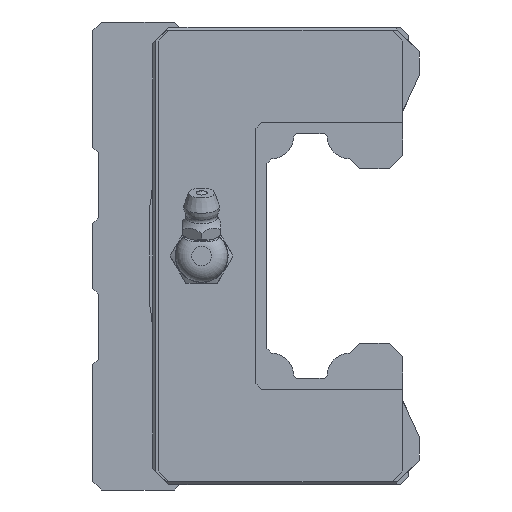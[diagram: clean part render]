
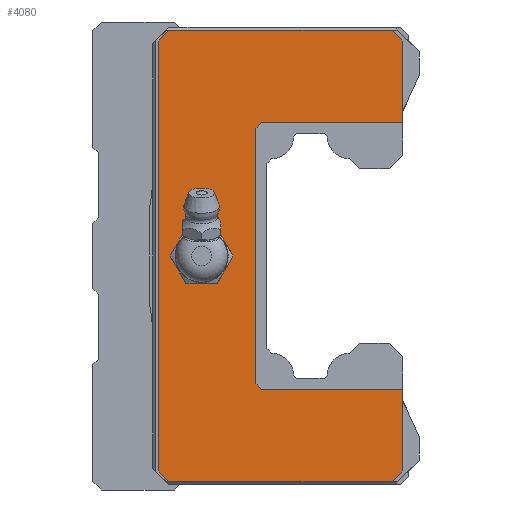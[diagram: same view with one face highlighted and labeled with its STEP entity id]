
A CAD part, left-side view. The second image highlights one B-rep face of the part: STEP entity #4080.
In plain terms, the highlighted planar face has unit normal (-1, 0, 0).
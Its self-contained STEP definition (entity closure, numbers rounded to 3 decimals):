
#265=LINE('',#6237,#741);
#270=LINE('',#6247,#746);
#419=LINE('',#6580,#895);
#423=LINE('',#6587,#899);
#424=LINE('',#6589,#900);
#426=LINE('',#6593,#902);
#429=LINE('',#6598,#905);
#431=LINE('',#6602,#907);
#433=LINE('',#6606,#909);
#447=LINE('',#6657,#923);
#448=LINE('',#6660,#924);
#449=LINE('',#6661,#925);
#450=LINE('',#6663,#926);
#451=LINE('',#6665,#927);
#741=VECTOR('',#4912,1000.);
#746=VECTOR('',#4919,1000.);
#895=VECTOR('',#5210,1000.);
#899=VECTOR('',#5216,1000.);
#900=VECTOR('',#5219,1000.);
#902=VECTOR('',#5223,1000.);
#905=VECTOR('',#5228,1000.);
#907=VECTOR('',#5232,1000.);
#909=VECTOR('',#5236,1000.);
#923=VECTOR('',#5298,1000.);
#924=VECTOR('',#5299,1000.);
#925=VECTOR('',#5300,1000.);
#926=VECTOR('',#5301,1000.);
#927=VECTOR('',#5302,1000.);
#1115=PLANE('',#4387);
#1248=CIRCLE('',#4388,4.864);
#2054=ORIENTED_EDGE('',*,*,#2874,.T.);
#2055=ORIENTED_EDGE('',*,*,#2875,.T.);
#2056=ORIENTED_EDGE('',*,*,#2876,.T.);
#2057=ORIENTED_EDGE('',*,*,#2664,.T.);
#2058=ORIENTED_EDGE('',*,*,#2842,.T.);
#2059=ORIENTED_EDGE('',*,*,#2838,.T.);
#2060=ORIENTED_EDGE('',*,*,#2852,.T.);
#2061=ORIENTED_EDGE('',*,*,#2850,.T.);
#2062=ORIENTED_EDGE('',*,*,#2848,.T.);
#2063=ORIENTED_EDGE('',*,*,#2845,.T.);
#2064=ORIENTED_EDGE('',*,*,#2843,.T.);
#2065=ORIENTED_EDGE('',*,*,#2669,.T.);
#2066=ORIENTED_EDGE('',*,*,#2877,.T.);
#2067=ORIENTED_EDGE('',*,*,#2878,.T.);
#2068=ORIENTED_EDGE('',*,*,#2879,.T.);
#2664=EDGE_CURVE('',#3170,#3169,#265,.T.);
#2669=EDGE_CURVE('',#3174,#3173,#270,.T.);
#2838=EDGE_CURVE('',#3287,#3288,#419,.T.);
#2842=EDGE_CURVE('',#3169,#3287,#423,.T.);
#2843=EDGE_CURVE('',#3289,#3174,#424,.T.);
#2845=EDGE_CURVE('',#3290,#3289,#426,.T.);
#2848=EDGE_CURVE('',#3291,#3290,#429,.T.);
#2850=EDGE_CURVE('',#3292,#3291,#431,.T.);
#2852=EDGE_CURVE('',#3288,#3292,#433,.T.);
#2874=EDGE_CURVE('',#3305,#3305,#1248,.T.);
#2875=EDGE_CURVE('',#3306,#3307,#447,.T.);
#2876=EDGE_CURVE('',#3307,#3170,#448,.T.);
#2877=EDGE_CURVE('',#3173,#3308,#449,.T.);
#2878=EDGE_CURVE('',#3308,#3309,#450,.T.);
#2879=EDGE_CURVE('',#3309,#3306,#451,.T.);
#3169=VERTEX_POINT('',#6236);
#3170=VERTEX_POINT('',#6238);
#3173=VERTEX_POINT('',#6246);
#3174=VERTEX_POINT('',#6248);
#3287=VERTEX_POINT('',#6581);
#3288=VERTEX_POINT('',#6582);
#3289=VERTEX_POINT('',#6590);
#3290=VERTEX_POINT('',#6594);
#3291=VERTEX_POINT('',#6599);
#3292=VERTEX_POINT('',#6603);
#3305=VERTEX_POINT('',#6656);
#3306=VERTEX_POINT('',#6658);
#3307=VERTEX_POINT('',#6659);
#3308=VERTEX_POINT('',#6662);
#3309=VERTEX_POINT('',#6664);
#3551=EDGE_LOOP('',(#2054));
#3552=EDGE_LOOP('',(#2055,#2056,#2057,#2058,#2059,#2060,#2061,#2062,#2063,
#2064,#2065,#2066,#2067,#2068));
#3822=FACE_BOUND('',#3551,.T.);
#3823=FACE_BOUND('',#3552,.T.);
#4080=ADVANCED_FACE('',(#3822,#3823),#1115,.F.);
#4387=AXIS2_PLACEMENT_3D('',#6654,#5294,#5295);
#4388=AXIS2_PLACEMENT_3D('',#6655,#5296,#5297);
#4912=DIRECTION('',(0.,0.,1.));
#4919=DIRECTION('',(0.,0.,1.));
#5210=DIRECTION('',(0.,1.,0.));
#5216=DIRECTION('',(0.,0.707,0.707));
#5219=DIRECTION('',(0.,-0.707,0.707));
#5223=DIRECTION('',(0.,-1.,0.));
#5228=DIRECTION('',(0.,-0.707,-0.707));
#5232=DIRECTION('',(0.,0.,-1.));
#5236=DIRECTION('',(0.,0.707,-0.707));
#5294=DIRECTION('',(1.,0.,0.));
#5295=DIRECTION('',(0.,0.,-1.));
#5296=DIRECTION('',(1.,0.,0.));
#5297=DIRECTION('',(0.,0.,-1.));
#5298=DIRECTION('',(0.,-0.707,0.707));
#5299=DIRECTION('',(0.,-1.,0.));
#5300=DIRECTION('',(0.,1.,0.));
#5301=DIRECTION('',(0.,0.707,0.707));
#5302=DIRECTION('',(0.,0.,1.));
#6236=CARTESIAN_POINT('',(-68.,3.,39.5));
#6237=CARTESIAN_POINT('',(-68.,3.,39.5));
#6238=CARTESIAN_POINT('',(-68.,3.,24.5));
#6246=CARTESIAN_POINT('',(-68.,3.,-24.5));
#6247=CARTESIAN_POINT('',(-68.,3.,39.5));
#6248=CARTESIAN_POINT('',(-68.,3.,-39.5));
#6580=CARTESIAN_POINT('',(-68.,46.,41.5));
#6581=CARTESIAN_POINT('',(-68.,5.,41.5));
#6582=CARTESIAN_POINT('',(-68.,46.,41.5));
#6587=CARTESIAN_POINT('',(-68.,5.,41.5));
#6589=CARTESIAN_POINT('',(-68.,3.,-39.5));
#6590=CARTESIAN_POINT('',(-68.,5.,-41.5));
#6593=CARTESIAN_POINT('',(-68.,5.,-41.5));
#6594=CARTESIAN_POINT('',(-68.,46.,-41.5));
#6598=CARTESIAN_POINT('',(-68.,46.,-41.5));
#6599=CARTESIAN_POINT('',(-68.,48.,-39.5));
#6602=CARTESIAN_POINT('',(-68.,48.,-39.5));
#6603=CARTESIAN_POINT('',(-68.,48.,39.5));
#6606=CARTESIAN_POINT('',(-68.,48.,39.5));
#6654=CARTESIAN_POINT('',(-68.,0.,0.));
#6655=CARTESIAN_POINT('',(-68.,40.,0.));
#6656=CARTESIAN_POINT('',(-68.,40.,-4.864));
#6657=CARTESIAN_POINT('',(-68.,30.,23.5));
#6658=CARTESIAN_POINT('',(-68.,30.,23.5));
#6659=CARTESIAN_POINT('',(-68.,29.,24.5));
#6660=CARTESIAN_POINT('',(-68.,29.,24.5));
#6661=CARTESIAN_POINT('',(-68.,3.,-24.5));
#6662=CARTESIAN_POINT('',(-68.,29.,-24.5));
#6663=CARTESIAN_POINT('',(-68.,29.,-24.5));
#6664=CARTESIAN_POINT('',(-68.,30.,-23.5));
#6665=CARTESIAN_POINT('',(-68.,30.,-23.5));
